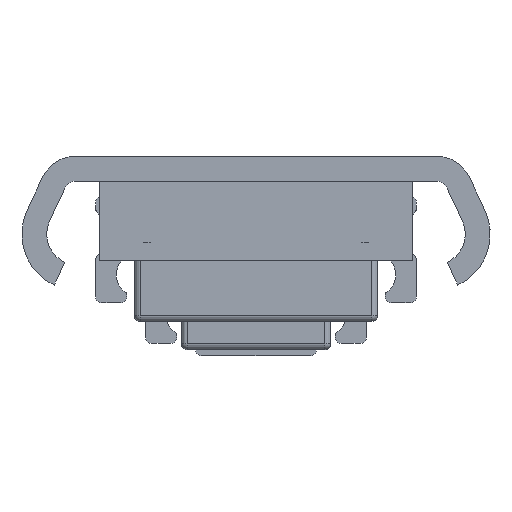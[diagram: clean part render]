
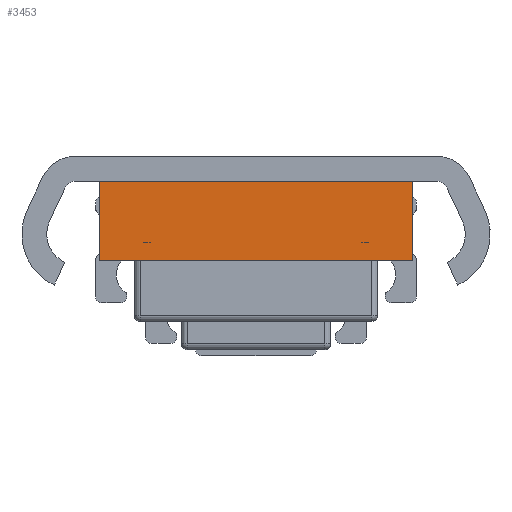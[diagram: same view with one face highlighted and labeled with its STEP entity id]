
A CAD part, left-side view. The second image highlights one B-rep face of the part: STEP entity #3453.
In plain terms, the highlighted planar face has unit normal (-1, 0, 0).
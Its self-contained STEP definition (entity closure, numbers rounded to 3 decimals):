
#93=PLANE('',#3851);
#313=LINE('',#5905,#575);
#314=LINE('',#5907,#576);
#315=LINE('',#5909,#577);
#316=LINE('',#5910,#578);
#575=VECTOR('',#4827,12.7);
#576=VECTOR('',#4828,50.);
#577=VECTOR('',#4829,12.7);
#578=VECTOR('',#4830,50.);
#835=FACE_OUTER_BOUND('',#1083,.T.);
#1083=EDGE_LOOP('',(#2973,#2974,#2975,#2976));
#1649=VERTEX_POINT('',#5903);
#1650=VERTEX_POINT('',#5904);
#1651=VERTEX_POINT('',#5906);
#1652=VERTEX_POINT('',#5908);
#2093=EDGE_CURVE('',#1649,#1650,#313,.T.);
#2094=EDGE_CURVE('',#1651,#1650,#314,.T.);
#2095=EDGE_CURVE('',#1652,#1651,#315,.T.);
#2096=EDGE_CURVE('',#1652,#1649,#316,.T.);
#2973=ORIENTED_EDGE('',*,*,#2093,.T.);
#2974=ORIENTED_EDGE('',*,*,#2094,.F.);
#2975=ORIENTED_EDGE('',*,*,#2095,.F.);
#2976=ORIENTED_EDGE('',*,*,#2096,.T.);
#3453=ADVANCED_FACE('',(#835),#93,.F.);
#3851=AXIS2_PLACEMENT_3D('',#5902,#4825,#4826);
#4825=DIRECTION('center_axis',(1.,0.,0.));
#4826=DIRECTION('ref_axis',(0.,0.,-1.));
#4827=DIRECTION('',(0.,0.,1.));
#4828=DIRECTION('',(0.,-1.,0.));
#4829=DIRECTION('',(0.,0.,1.));
#4830=DIRECTION('',(0.,-1.,0.));
#5902=CARTESIAN_POINT('Origin',(-398.85,25.,-16.7));
#5903=CARTESIAN_POINT('',(-398.85,-25.,-16.7));
#5904=CARTESIAN_POINT('',(-398.85,-25.,-4.));
#5905=CARTESIAN_POINT('',(-398.85,-25.,-16.7));
#5906=CARTESIAN_POINT('',(-398.85,25.,-4.));
#5907=CARTESIAN_POINT('',(-398.85,25.,-4.));
#5908=CARTESIAN_POINT('',(-398.85,25.,-16.7));
#5909=CARTESIAN_POINT('',(-398.85,25.,-16.7));
#5910=CARTESIAN_POINT('',(-398.85,25.,-16.7));
